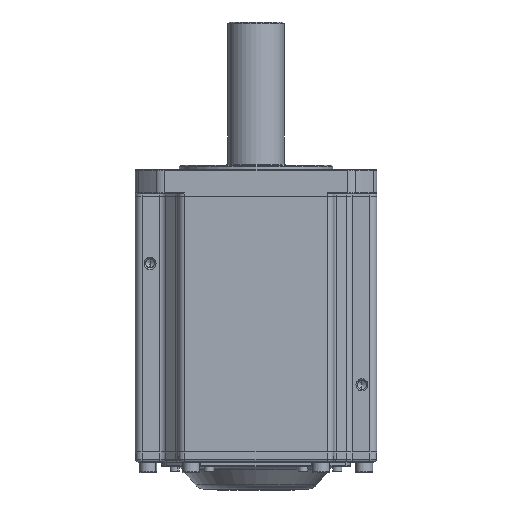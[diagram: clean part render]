
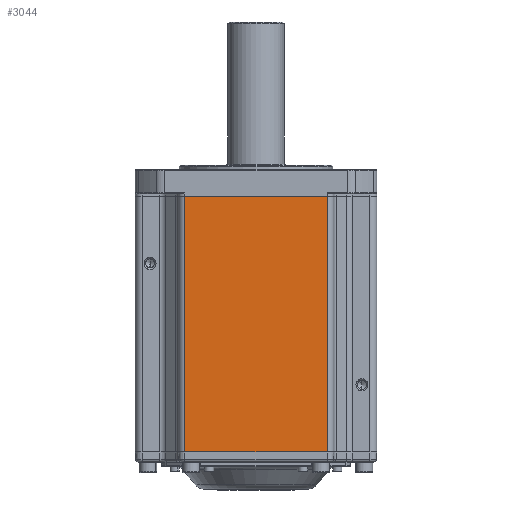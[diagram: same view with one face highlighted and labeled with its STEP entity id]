
A CAD part, front view. The second image highlights one B-rep face of the part: STEP entity #3044.
In plain terms, the highlighted planar face has unit normal (0, -1, 0).
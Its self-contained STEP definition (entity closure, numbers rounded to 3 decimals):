
#615 = PLANE ( 'NONE',  #52307 ) ;
#1132 = DIRECTION ( 'NONE',  ( 1., 0., 0. ) ) ;
#1453 = DIRECTION ( 'NONE',  ( 0., 0., -1. ) ) ;
#3044 = ADVANCED_FACE ( 'NONE', ( #29060 ), #615, .F. ) ;
#6692 = EDGE_CURVE ( 'NONE', #33249, #60979, #20831, .T. ) ;
#6754 = EDGE_LOOP ( 'NONE', ( #18865, #25986, #31608, #11781 ) ) ;
#7273 = CARTESIAN_POINT ( 'NONE',  ( -52.974, -89.007, -896.673 ) ) ;
#10629 = VERTEX_POINT ( 'NONE', #48564 ) ;
#11560 = LINE ( 'NONE', #34577, #12368 ) ;
#11781 = ORIENTED_EDGE ( 'NONE', *, *, #17998, .T. ) ;
#11919 = CARTESIAN_POINT ( 'NONE',  ( -52.974, -89.007, 103.327 ) ) ;
#12368 = VECTOR ( 'NONE', #63455, 1000. ) ;
#13167 = DIRECTION ( 'NONE',  ( -1., 0., 0. ) ) ;
#16494 = VERTEX_POINT ( 'NONE', #37919 ) ;
#17998 = EDGE_CURVE ( 'NONE', #10629, #33249, #33617, .T. ) ;
#18865 = ORIENTED_EDGE ( 'NONE', *, *, #6692, .T. ) ;
#20831 = LINE ( 'NONE', #7273, #45489 ) ;
#24961 = VECTOR ( 'NONE', #1132, 1000. ) ;
#25986 = ORIENTED_EDGE ( 'NONE', *, *, #60889, .T. ) ;
#29060 = FACE_OUTER_BOUND ( 'NONE', #6754, .T. ) ;
#30287 = CARTESIAN_POINT ( 'NONE',  ( 58.026, -89.007, -896.673 ) ) ;
#31608 = ORIENTED_EDGE ( 'NONE', *, *, #56175, .T. ) ;
#32091 = CARTESIAN_POINT ( 'NONE',  ( 58.026, -89.007, 103.327 ) ) ;
#33249 = VERTEX_POINT ( 'NONE', #11919 ) ;
#33617 = LINE ( 'NONE', #32091, #50606 ) ;
#34577 = CARTESIAN_POINT ( 'NONE',  ( 53.026, -89.007, -896.673 ) ) ;
#35935 = CARTESIAN_POINT ( 'NONE',  ( -52.974, -89.007, -87.273 ) ) ;
#37919 = CARTESIAN_POINT ( 'NONE',  ( 53.026, -89.007, -87.273 ) ) ;
#44925 = DIRECTION ( 'NONE',  ( 0., 1., 0. ) ) ;
#44977 = LINE ( 'NONE', #60126, #24961 ) ;
#45489 = VECTOR ( 'NONE', #56112, 1000. ) ;
#48564 = CARTESIAN_POINT ( 'NONE',  ( 53.026, -89.007, 103.327 ) ) ;
#50606 = VECTOR ( 'NONE', #13167, 1000. ) ;
#52307 = AXIS2_PLACEMENT_3D ( 'NONE', #30287, #44925, #1453 ) ;
#56112 = DIRECTION ( 'NONE',  ( 0., 0., -1. ) ) ;
#56175 = EDGE_CURVE ( 'NONE', #16494, #10629, #11560, .T. ) ;
#60126 = CARTESIAN_POINT ( 'NONE',  ( -154.318, -89.007, -87.273 ) ) ;
#60889 = EDGE_CURVE ( 'NONE', #60979, #16494, #44977, .T. ) ;
#60979 = VERTEX_POINT ( 'NONE', #35935 ) ;
#63455 = DIRECTION ( 'NONE',  ( 0., 0., 1. ) ) ;
